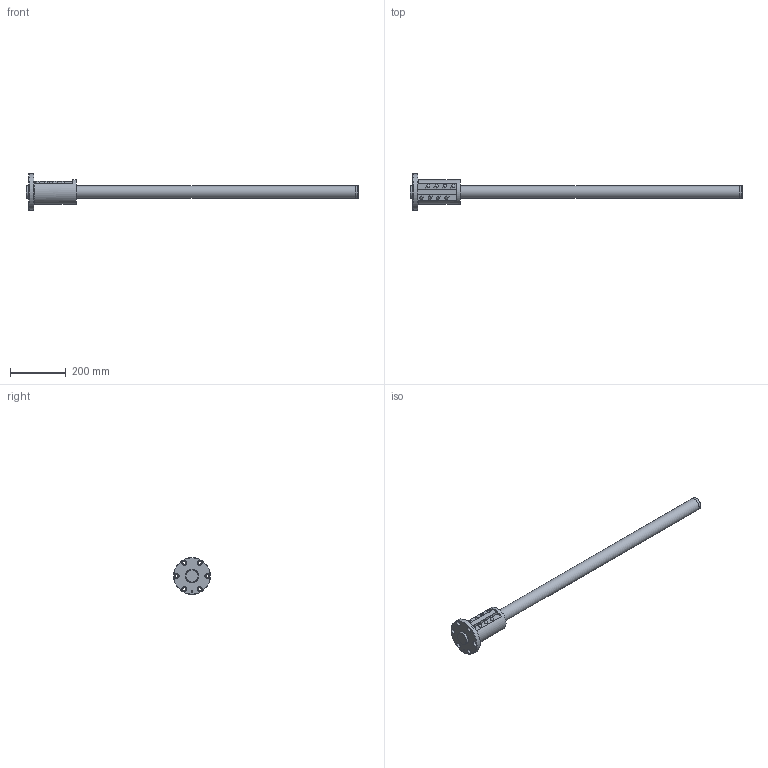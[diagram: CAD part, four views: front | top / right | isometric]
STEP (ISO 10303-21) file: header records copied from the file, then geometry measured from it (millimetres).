
FILE_DESCRIPTION( ( 'STEP AP203' ), ' ' );
FILE_NAME( 'p:/temp/worker_19/4028_1992/app_48_12018011815542407446006818fa3fd_000000_00_00_000000/format_0/BIF4510-10RRG0+1191LC0_10000.stp', '2018-01-18T14:54:25', ( '' ), ( '' ), ' ', 'PARTsolutions', ' ' );
FILE_SCHEMA( ( 'CONFIG_CONTROL_DESIGN' ) );
Length unit declared in the file: millimetre
Products named in the file (3): BIF4510-10RRG0+1191LC0_10000; _BIF 4510-10RR1000500 Shaft; _BIF 4510-10RR Nut
Assembly tree (2 placements, depth 2):
  BIF4510-10RRG0+1191LC0_10000
    _BIF 4510-10RR1000500 Shaft
    _BIF 4510-10RR Nut
Bounding box: 1191 x 132 x 132 mm (x, y, z)
Volume: 2720798.3 mm3; surface area: 278626.7 mm2
Topology: 2 solids, 2 shells, 82 faces, 186 edges, 121 vertices
Faces by surface type: cylinder 39, plane 27, cone 8, torus 8
Full cylindrical faces by diameter (mm): 4.917 x1, 6.2 x2, 11 x6, 17.5 x6, 44.5 x2, 45 x4, 49.2 x2, 88 x1, 132 x1
Entity records: 2886 total; most frequent: CARTESIAN_POINT 1023, DIRECTION 384, ORIENTED_EDGE 294, AXIS2_PLACEMENT_3D 168, EDGE_CURVE 147, EDGE_LOOP 144, VERTEX_POINT 115, FACE_OUTER_BOUND 107
